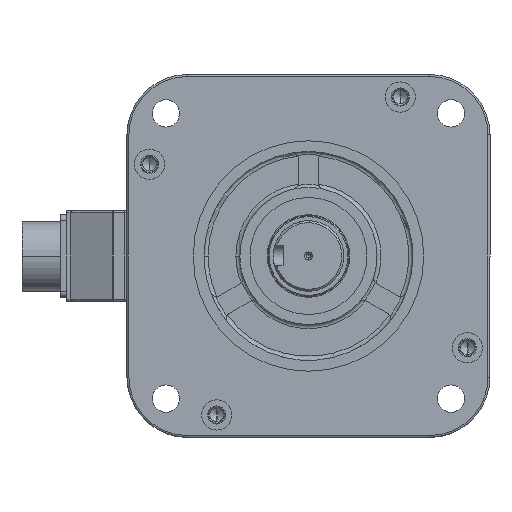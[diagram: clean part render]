
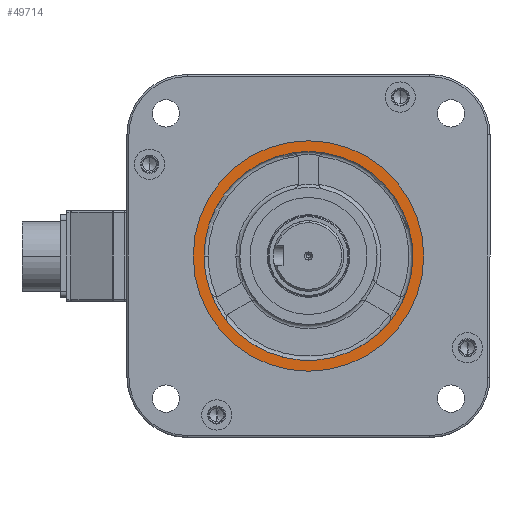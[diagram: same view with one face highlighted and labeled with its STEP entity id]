
A CAD part, left-side view. The second image highlights one B-rep face of the part: STEP entity #49714.
In plain terms, the highlighted planar face has unit normal (-1, 0, 0) as drawn and (0, 0, 1) by its records, which use the part's own axes.
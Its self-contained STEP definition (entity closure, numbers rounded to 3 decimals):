
#440 = AXIS2_PLACEMENT_3D ( 'NONE', #28522, #46903, #19672 ) ;
#570 = AXIS2_PLACEMENT_3D ( 'NONE', #21037, #47668, #58311 ) ;
#2449 = CARTESIAN_POINT ( 'NONE',  ( 0., 0., 21. ) ) ;
#2865 = AXIS2_PLACEMENT_3D ( 'NONE', #2449, #21116, #49846 ) ;
#3229 = VERTEX_POINT ( 'NONE', #57597 ) ;
#4469 = PLANE ( 'NONE',  #38070 ) ;
#4626 = ORIENTED_EDGE ( 'NONE', *, *, #60362, .F. ) ;
#7078 = VERTEX_POINT ( 'NONE', #16319 ) ;
#7697 = ORIENTED_EDGE ( 'NONE', *, *, #47152, .F. ) ;
#8144 = DIRECTION ( 'NONE',  ( 1., 0., 0. ) ) ;
#8377 = CIRCLE ( 'NONE', #570, 51.75 ) ;
#8418 = ORIENTED_EDGE ( 'NONE', *, *, #55083, .F. ) ;
#9264 = DIRECTION ( 'NONE',  ( 0., 0., 1. ) ) ;
#9387 = ORIENTED_EDGE ( 'NONE', *, *, #56338, .F. ) ;
#10585 = AXIS2_PLACEMENT_3D ( 'NONE', #24082, #23763, #24376 ) ;
#12478 = CARTESIAN_POINT ( 'NONE',  ( -48.455, 18.17, 21. ) ) ;
#12537 = EDGE_CURVE ( 'NONE', #54741, #55624, #60367, .T. ) ;
#13223 = AXIS2_PLACEMENT_3D ( 'NONE', #56591, #52327, #51417 ) ;
#13357 = CARTESIAN_POINT ( 'NONE',  ( 0., 0., 21. ) ) ;
#13941 = CARTESIAN_POINT ( 'NONE',  ( 0., 0., 21. ) ) ;
#13942 = DIRECTION ( 'NONE',  ( 0., 0., 1. ) ) ;
#16319 = CARTESIAN_POINT ( 'NONE',  ( -39.963, 32.879, 21. ) ) ;
#16870 = VERTEX_POINT ( 'NONE', #23753 ) ;
#18825 = DIRECTION ( 'NONE',  ( 0., 0., 1. ) ) ;
#19441 = VERTEX_POINT ( 'NONE', #12478 ) ;
#19672 = DIRECTION ( 'NONE',  ( 1., 0., 0. ) ) ;
#21037 = CARTESIAN_POINT ( 'NONE',  ( 0., 0., 21. ) ) ;
#21116 = DIRECTION ( 'NONE',  ( 0., 0., 1. ) ) ;
#22610 = DIRECTION ( 'NONE',  ( 0., 0., 1. ) ) ;
#22644 = VERTEX_POINT ( 'NONE', #40243 ) ;
#23441 = FACE_OUTER_BOUND ( 'NONE', #51211, .T. ) ;
#23753 = CARTESIAN_POINT ( 'NONE',  ( 51.75, 0., 21. ) ) ;
#23763 = DIRECTION ( 'NONE',  ( 0., 0., 1. ) ) ;
#24082 = CARTESIAN_POINT ( 'NONE',  ( 0., 0., 21. ) ) ;
#24376 = DIRECTION ( 'NONE',  ( 1., 0., 0. ) ) ;
#25184 = ORIENTED_EDGE ( 'NONE', *, *, #35479, .T. ) ;
#25860 = AXIS2_PLACEMENT_3D ( 'NONE', #36204, #31922, #26141 ) ;
#26141 = DIRECTION ( 'NONE',  ( 1., 0., 0. ) ) ;
#26501 = VERTEX_POINT ( 'NONE', #55869 ) ;
#27157 = EDGE_LOOP ( 'NONE', ( #57924, #7697, #4626, #55255, #8418, #33383, #9387 ) ) ;
#27408 = DIRECTION ( 'NONE',  ( 1., 0., 0. ) ) ;
#28500 = EDGE_CURVE ( 'NONE', #3229, #49157, #47332, .T. ) ;
#28522 = CARTESIAN_POINT ( 'NONE',  ( 0., 0., 21. ) ) ;
#31767 = CIRCLE ( 'NONE', #39582, 57.15 ) ;
#31922 = DIRECTION ( 'NONE',  ( 0., 0., 1. ) ) ;
#32151 = CIRCLE ( 'NONE', #2865, 57.15 ) ;
#33383 = ORIENTED_EDGE ( 'NONE', *, *, #55604, .F. ) ;
#35479 = EDGE_CURVE ( 'NONE', #22644, #26501, #32151, .T. ) ;
#36059 = DIRECTION ( 'NONE',  ( 1., 0., 0. ) ) ;
#36204 = CARTESIAN_POINT ( 'NONE',  ( 0., 0., 21. ) ) ;
#37392 = DIRECTION ( 'NONE',  ( 1., 0., 0. ) ) ;
#38070 = AXIS2_PLACEMENT_3D ( 'NONE', #13941, #18825, #8144 ) ;
#39570 = CIRCLE ( 'NONE', #13223, 51.75 ) ;
#39582 = AXIS2_PLACEMENT_3D ( 'NONE', #49835, #22610, #36059 ) ;
#40243 = CARTESIAN_POINT ( 'NONE',  ( 57.15, 0., 21. ) ) ;
#40751 = ORIENTED_EDGE ( 'NONE', *, *, #56105, .T. ) ;
#46366 = FACE_BOUND ( 'NONE', #27157, .T. ) ;
#46903 = DIRECTION ( 'NONE',  ( 0., 0., 1. ) ) ;
#47152 = EDGE_CURVE ( 'NONE', #16870, #3229, #39570, .T. ) ;
#47332 = CIRCLE ( 'NONE', #25860, 51.75 ) ;
#47668 = DIRECTION ( 'NONE',  ( 0., 0., 1. ) ) ;
#49157 = VERTEX_POINT ( 'NONE', #54555 ) ;
#49714 = ADVANCED_FACE ( 'NONE', ( #46366, #23441 ), #4469, .T. ) ;
#49835 = CARTESIAN_POINT ( 'NONE',  ( 0., 0., 21. ) ) ;
#49846 = DIRECTION ( 'NONE',  ( 1., 0., 0. ) ) ;
#51211 = EDGE_LOOP ( 'NONE', ( #40751, #25184 ) ) ;
#51417 = DIRECTION ( 'NONE',  ( 1., 0., 0. ) ) ;
#52327 = DIRECTION ( 'NONE',  ( 0., 0., 1. ) ) ;
#54286 = AXIS2_PLACEMENT_3D ( 'NONE', #55130, #9264, #37392 ) ;
#54555 = CARTESIAN_POINT ( 'NONE',  ( 39.963, 32.879, 21. ) ) ;
#54741 = VERTEX_POINT ( 'NONE', #54768 ) ;
#54768 = CARTESIAN_POINT ( 'NONE',  ( -8.492, -51.048, 21. ) ) ;
#55057 = AXIS2_PLACEMENT_3D ( 'NONE', #13357, #13942, #27408 ) ;
#55083 = EDGE_CURVE ( 'NONE', #19441, #54741, #57969, .T. ) ;
#55130 = CARTESIAN_POINT ( 'NONE',  ( 0., 0., 21. ) ) ;
#55255 = ORIENTED_EDGE ( 'NONE', *, *, #12537, .F. ) ;
#55604 = EDGE_CURVE ( 'NONE', #7078, #19441, #56108, .T. ) ;
#55624 = VERTEX_POINT ( 'NONE', #56942 ) ;
#55869 = CARTESIAN_POINT ( 'NONE',  ( -57.15, 0., 21. ) ) ;
#56105 = EDGE_CURVE ( 'NONE', #26501, #22644, #31767, .T. ) ;
#56108 = CIRCLE ( 'NONE', #440, 51.75 ) ;
#56247 = CIRCLE ( 'NONE', #54286, 51.75 ) ;
#56338 = EDGE_CURVE ( 'NONE', #49157, #7078, #8377, .T. ) ;
#56591 = CARTESIAN_POINT ( 'NONE',  ( 0., 0., 21. ) ) ;
#56942 = CARTESIAN_POINT ( 'NONE',  ( 8.492, -51.048, 21. ) ) ;
#57597 = CARTESIAN_POINT ( 'NONE',  ( 48.455, 18.17, 21. ) ) ;
#57924 = ORIENTED_EDGE ( 'NONE', *, *, #28500, .F. ) ;
#57969 = CIRCLE ( 'NONE', #55057, 51.75 ) ;
#58311 = DIRECTION ( 'NONE',  ( 1., 0., 0. ) ) ;
#60362 = EDGE_CURVE ( 'NONE', #55624, #16870, #56247, .T. ) ;
#60367 = CIRCLE ( 'NONE', #10585, 51.75 ) ;
